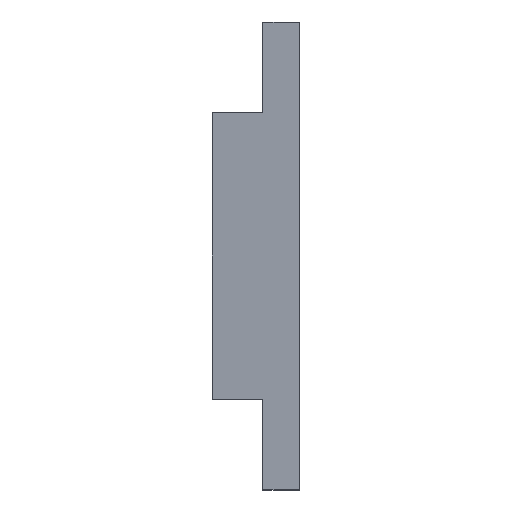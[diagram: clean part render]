
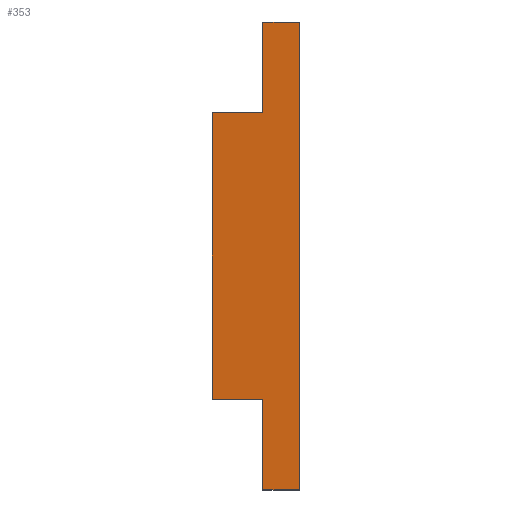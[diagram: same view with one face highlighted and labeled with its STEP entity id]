
A CAD part, left-side view. The second image highlights one B-rep face of the part: STEP entity #353.
In plain terms, the highlighted planar face has unit normal (-0.997, 0, -0.084).
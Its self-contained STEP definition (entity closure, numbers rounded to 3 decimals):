
#11 = VERTEX_POINT ( 'NONE', #957 ) ;
#28 = EDGE_CURVE ( 'NONE', #11, #87, #982, .T. ) ;
#87 = VERTEX_POINT ( 'NONE', #1110 ) ;
#273 = EDGE_CURVE ( 'NONE', #288, #301, #1476, .T. ) ;
#280 = VERTEX_POINT ( 'NONE', #1511 ) ;
#283 = EDGE_CURVE ( 'NONE', #301, #280, #1550, .T. ) ;
#288 = VERTEX_POINT ( 'NONE', #1537 ) ;
#301 = VERTEX_POINT ( 'NONE', #1676 ) ;
#316 = EDGE_CURVE ( 'NONE', #341, #288, #1740, .T. ) ;
#341 = VERTEX_POINT ( 'NONE', #1755 ) ;
#347 = EDGE_CURVE ( 'NONE', #11, #280, #1804, .T. ) ;
#353 = ADVANCED_FACE ( 'NONE', ( #1797 ), #1792, .F. ) ;
#354 = VERTEX_POINT ( 'NONE', #1781 ) ;
#355 = EDGE_LOOP ( 'NONE', ( #357, #356, #363, #366, #362, #364, #360, #424 ) ) ;
#356 = ORIENTED_EDGE ( 'NONE', *, *, #358, .F. ) ;
#357 = ORIENTED_EDGE ( 'NONE', *, *, #359, .T. ) ;
#358 = EDGE_CURVE ( 'NONE', #87, #354, #1785, .T. ) ;
#359 = EDGE_CURVE ( 'NONE', #394, #354, #1841, .T. ) ;
#360 = ORIENTED_EDGE ( 'NONE', *, *, #316, .F. ) ;
#362 = ORIENTED_EDGE ( 'NONE', *, *, #283, .F. ) ;
#363 = ORIENTED_EDGE ( 'NONE', *, *, #28, .F. ) ;
#364 = ORIENTED_EDGE ( 'NONE', *, *, #273, .F. ) ;
#366 = ORIENTED_EDGE ( 'NONE', *, *, #347, .T. ) ;
#371 = EDGE_CURVE ( 'NONE', #341, #394, #1828, .T. ) ;
#394 = VERTEX_POINT ( 'NONE', #1865 ) ;
#424 = ORIENTED_EDGE ( 'NONE', *, *, #371, .T. ) ;
#957 = CARTESIAN_POINT ( 'NONE',  ( 508.836, 4.1, -65.397 ) ) ;
#979 = DIRECTION ( 'NONE',  ( -0.084, 0., 0.996 ) ) ;
#980 = VECTOR ( 'NONE', #979, 1000. ) ;
#981 = CARTESIAN_POINT ( 'NONE',  ( 509.539, 4.1, -73.771 ) ) ;
#982 = LINE ( 'NONE', #981, #980 ) ;
#1110 = CARTESIAN_POINT ( 'NONE',  ( 507.989, 4.1, -55.297 ) ) ;
#1476 = LINE ( 'NONE', #1510, #1509 ) ;
#1508 = DIRECTION ( 'NONE',  ( 0., 1., 0. ) ) ;
#1509 = VECTOR ( 'NONE', #1508, 1000. ) ;
#1510 = CARTESIAN_POINT ( 'NONE',  ( 511.505, -300.235, -97.197 ) ) ;
#1511 = CARTESIAN_POINT ( 'NONE',  ( 508.836, 9.7, -65.397 ) ) ;
#1537 = CARTESIAN_POINT ( 'NONE',  ( 511.505, 4.1, -97.197 ) ) ;
#1547 = DIRECTION ( 'NONE',  ( -0.084, 0., 0.996 ) ) ;
#1548 = VECTOR ( 'NONE', #1547, 1000. ) ;
#1549 = CARTESIAN_POINT ( 'NONE',  ( 511.505, 9.7, -97.197 ) ) ;
#1550 = LINE ( 'NONE', #1549, #1548 ) ;
#1676 = CARTESIAN_POINT ( 'NONE',  ( 511.505, 9.7, -97.197 ) ) ;
#1714 = DIRECTION ( 'NONE',  ( -0.084, 0., 0.996 ) ) ;
#1735 = VECTOR ( 'NONE', #1714, 1000. ) ;
#1739 = CARTESIAN_POINT ( 'NONE',  ( 509.539, 4.1, -73.771 ) ) ;
#1740 = LINE ( 'NONE', #1739, #1735 ) ;
#1755 = CARTESIAN_POINT ( 'NONE',  ( 512.353, 4.1, -107.297 ) ) ;
#1779 = DIRECTION ( 'NONE',  ( 0.084, 0., -0.996 ) ) ;
#1780 = DIRECTION ( 'NONE',  ( 0.996, 0., 0.084 ) ) ;
#1781 = CARTESIAN_POINT ( 'NONE',  ( 507.989, 0., -55.297 ) ) ;
#1782 = AXIS2_PLACEMENT_3D ( 'NONE', #1787, #1780, #1779 ) ;
#1785 = LINE ( 'NONE', #1844, #1843 ) ;
#1787 = CARTESIAN_POINT ( 'NONE',  ( 509.539, 4.1, -73.771 ) ) ;
#1792 = PLANE ( 'NONE',  #1782 ) ;
#1797 = FACE_OUTER_BOUND ( 'NONE', #355, .T. ) ;
#1800 = DIRECTION ( 'NONE',  ( 0., 1., 0. ) ) ;
#1801 = VECTOR ( 'NONE', #1800, 1000. ) ;
#1802 = CARTESIAN_POINT ( 'NONE',  ( 508.836, -300.235, -65.397 ) ) ;
#1804 = LINE ( 'NONE', #1802, #1801 ) ;
#1822 = VECTOR ( 'NONE', #1830, 1000. ) ;
#1828 = LINE ( 'NONE', #1831, #1822 ) ;
#1830 = DIRECTION ( 'NONE',  ( 0., -1., 0. ) ) ;
#1831 = CARTESIAN_POINT ( 'NONE',  ( 512.353, 4.1, -107.297 ) ) ;
#1838 = DIRECTION ( 'NONE',  ( -0.084, 0., 0.996 ) ) ;
#1839 = VECTOR ( 'NONE', #1838, 1000. ) ;
#1840 = CARTESIAN_POINT ( 'NONE',  ( 509.539, 0., -73.771 ) ) ;
#1841 = LINE ( 'NONE', #1840, #1839 ) ;
#1842 = DIRECTION ( 'NONE',  ( 0., -1., 0. ) ) ;
#1843 = VECTOR ( 'NONE', #1842, 1000. ) ;
#1844 = CARTESIAN_POINT ( 'NONE',  ( 507.989, 4.1, -55.297 ) ) ;
#1865 = CARTESIAN_POINT ( 'NONE',  ( 512.353, 0., -107.297 ) ) ;
